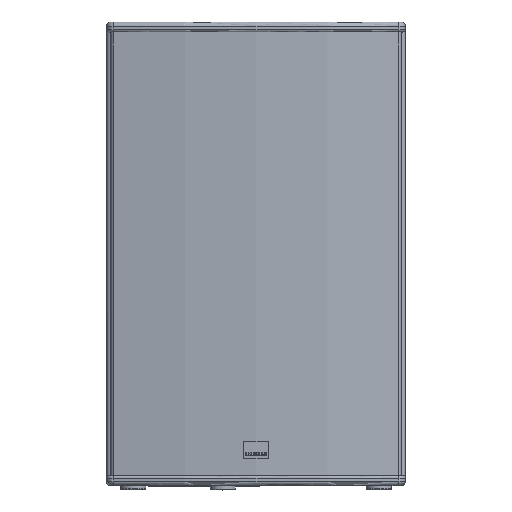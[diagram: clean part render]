
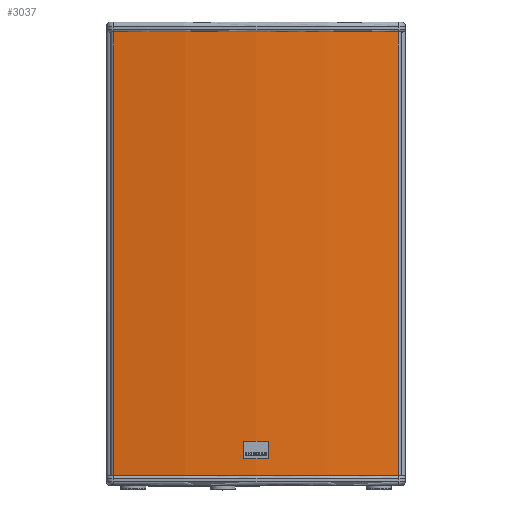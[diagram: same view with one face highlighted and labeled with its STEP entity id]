
A CAD part, top view. The second image highlights one B-rep face of the part: STEP entity #3037.
In plain terms, the highlighted cylindrical face has radius 1269.12 mm (diameter 2538.25 mm), a partial arc.
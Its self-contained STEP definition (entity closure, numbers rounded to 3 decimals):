
#3028 = VERTEX_POINT ( 'NONE', #15861 ) ;
#3029 = EDGE_CURVE ( 'NONE', #3028, #3033, #15860, .T. ) ;
#3030 = ORIENTED_EDGE ( 'NONE', *, *, #3034, .F. ) ;
#3031 = VERTEX_POINT ( 'NONE', #15856 ) ;
#3032 = VERTEX_POINT ( 'NONE', #15855 ) ;
#3033 = VERTEX_POINT ( 'NONE', #15854 ) ;
#3034 = EDGE_CURVE ( 'NONE', #3031, #3028, #15852, .T. ) ;
#3035 = ORIENTED_EDGE ( 'NONE', *, *, #3130, .F. ) ;
#3037 = ADVANCED_FACE ( 'NONE', ( #15853 ), #15847, .T. ) ;
#3044 = EDGE_LOOP ( 'NONE', ( #3049, #3083, #3030, #3035 ) ) ;
#3049 = ORIENTED_EDGE ( 'NONE', *, *, #3050, .T. ) ;
#3050 = EDGE_CURVE ( 'NONE', #3032, #3033, #15894, .T. ) ;
#3083 = ORIENTED_EDGE ( 'NONE', *, *, #3029, .F. ) ;
#3130 = EDGE_CURVE ( 'NONE', #3032, #3031, #16145, .T. ) ;
#15842 = DIRECTION ( 'NONE',  ( 1., 0., 0. ) ) ;
#15843 = DIRECTION ( 'NONE',  ( 0., 0., 1. ) ) ;
#15844 = CARTESIAN_POINT ( 'NONE',  ( 225., 1275.625, 0. ) ) ;
#15845 = AXIS2_PLACEMENT_3D ( 'NONE', #15844, #15843, #15842 ) ;
#15847 = CYLINDRICAL_SURFACE ( 'NONE', #15845, 1269.125 ) ;
#15848 = DIRECTION ( 'NONE',  ( 1., 0., 0. ) ) ;
#15849 = DIRECTION ( 'NONE',  ( 0., 0., 1. ) ) ;
#15850 = CARTESIAN_POINT ( 'NONE',  ( 225., 1275.625, 668. ) ) ;
#15851 = AXIS2_PLACEMENT_3D ( 'NONE', #15850, #15849, #15848 ) ;
#15852 = CIRCLE ( 'NONE', #15851, 1269.125 ) ;
#15853 = FACE_OUTER_BOUND ( 'NONE', #3044, .T. ) ;
#15854 = CARTESIAN_POINT ( 'NONE',  ( 438.927, 24.66, 0. ) ) ;
#15855 = CARTESIAN_POINT ( 'NONE',  ( 11.073, 24.66, 0. ) ) ;
#15856 = CARTESIAN_POINT ( 'NONE',  ( 11.073, 24.66, 668. ) ) ;
#15857 = DIRECTION ( 'NONE',  ( 0., 0., -1. ) ) ;
#15858 = VECTOR ( 'NONE', #15857, 1000. ) ;
#15859 = CARTESIAN_POINT ( 'NONE',  ( 438.927, 24.66, 0. ) ) ;
#15860 = LINE ( 'NONE', #15859, #15858 ) ;
#15861 = CARTESIAN_POINT ( 'NONE',  ( 438.927, 24.66, 668. ) ) ;
#15890 = DIRECTION ( 'NONE',  ( 1., 0., 0. ) ) ;
#15891 = DIRECTION ( 'NONE',  ( 0., 0., 1. ) ) ;
#15892 = CARTESIAN_POINT ( 'NONE',  ( 225., 1275.625, 0. ) ) ;
#15893 = AXIS2_PLACEMENT_3D ( 'NONE', #15892, #15891, #15890 ) ;
#15894 = CIRCLE ( 'NONE', #15893, 1269.125 ) ;
#16139 = DIRECTION ( 'NONE',  ( 0., 0., 1. ) ) ;
#16140 = VECTOR ( 'NONE', #16139, 1000. ) ;
#16141 = CARTESIAN_POINT ( 'NONE',  ( 11.073, 24.66, 0. ) ) ;
#16145 = LINE ( 'NONE', #16141, #16140 ) ;
